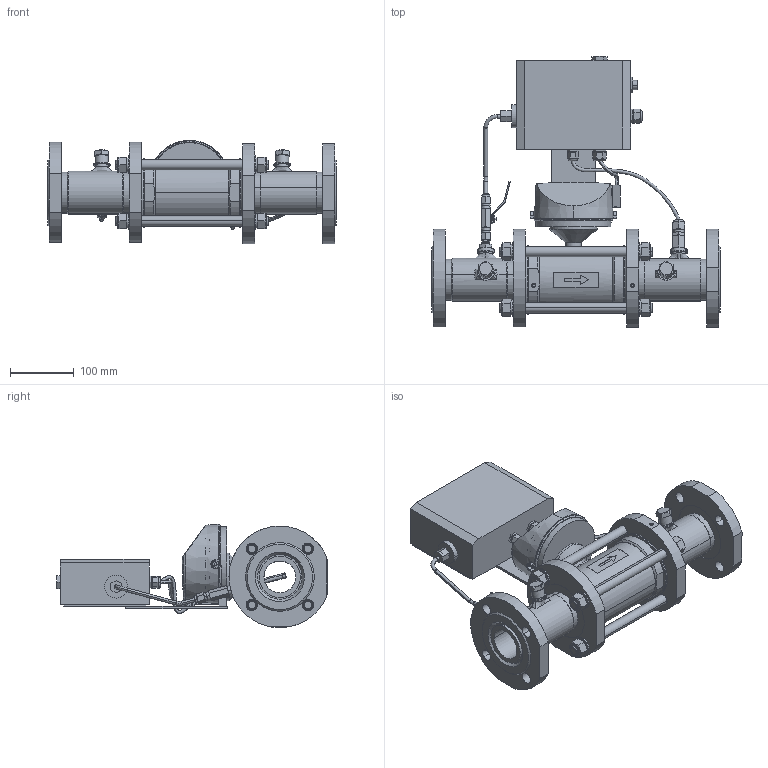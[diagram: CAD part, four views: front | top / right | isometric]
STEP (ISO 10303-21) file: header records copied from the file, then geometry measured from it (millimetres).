
FILE_DESCRIPTION((''),'2;1');
FILE_NAME('9_1_ASM','2020-12-24T',('solovki'),(''),'CREO PARAMETRIC BY PTC INC, 2018360','CREO PARAMETRIC BY PTC INC, 2018360','');
FILE_SCHEMA(('AUTOMOTIVE_DESIGN { 1 0 10303 214 1 1 1 1 }'));
Length unit declared in the file: millimetre
Products named in the file (36): 934; 935; 933_AF0_ASM; 937; 939_AF1; 940_AF1; 940_AF0; 941_AF1; 942_AF0; 938_ASM; 944_AF1; 940_AF3; 940_AF2; 945_AF1; 942_AF1; 943_ASM; 946; 947; 948; 949; 950; 951; 952; 953; 954; 955; 957; 958; 959; 960; 961; 956_ASM; 962; 963; 964; 9_1_ASM
Assembly tree (55 placements, depth 3):
  9_1_ASM
    933_AF0_ASM
      934
      935
    937  x2
    938_ASM
      939_AF1
      940_AF1
      940_AF0
      941_AF1
      942_AF0
    943_ASM
      944_AF1
      940_AF3
      940_AF2
      945_AF1
      942_AF1
    946  x2
    947
    948
    949
    950
    951  x4
    952  x8
    953  x8
    954
    955
    956_ASM
      957
      958
      959
      960
      961  x2
    962
    963
    964
Bounding box: 454 x 426.5 x 162.79 mm (x, y, z)
Volume: 5479029.9 mm3; surface area: 882046.2 mm2
Topology: 51 solids, 107 shells, 1519 faces, 3689 edges, 2396 vertices
Faces by surface type: plane 610, cylinder 581, cone 250, bspline 48, torus 27, sphere 2, extrusion 1
Entity records: 60316 total; most frequent: CARTESIAN_POINT 11531, DIRECTION 6510, ORIENTED_EDGE 5764, PRESENTATION_STYLE_ASSIGNMENT 4077, STYLED_ITEM 4077, EDGE_CURVE 2985, CURVE_STYLE 2878, AXIS2_PLACEMENT_3D 2578
